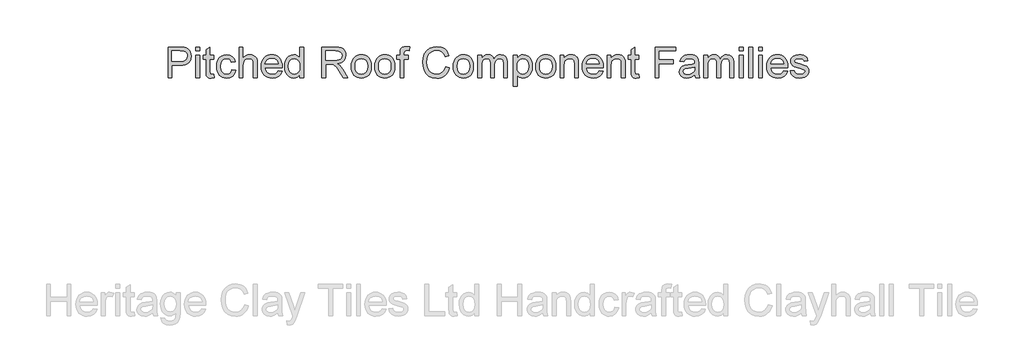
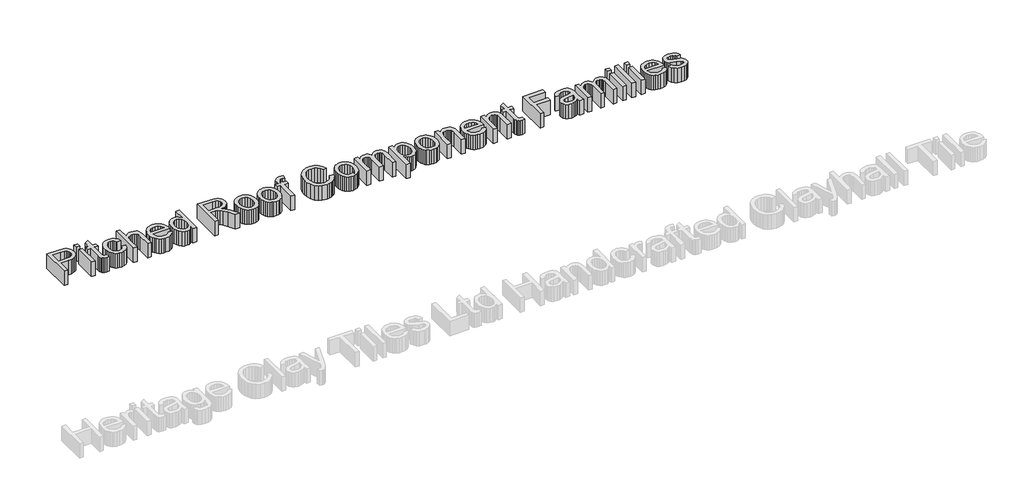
# One storey, part 3 of 3: 1 proxy.
"""IFC4 building model written with IfcOpenShell, lengths in millimetres."""

from ifc_helpers import new_model, si_unit, frame, origin, place, context, project, spatial, polyline, outline, extrude, element, save

model = new_model("IFC4")

# Units and contexts
model_context = context("Model", 3, world=origin())
ifc_project = project(units=[si_unit("LENGTHUNIT", "METRE", prefix="MILLI")], contexts=[model_context])

# Site, building, storey
site = spatial("IfcSite", under=ifc_project)
building = spatial("IfcBuilding", under=site)
storey = spatial("IfcBuildingStorey", under=building, Name="Marley Eternit Clay Plain Tile", Elevation=3000.0)

# Proxy
placement = place(None, origin())
element("IfcBuildingElementProxy", 1, Name="600mm Arial", ObjectType="600mm Arial", at=placement, inside=storey, context=model_context, shape_type="SweptSolid", body=[
    extrude(outline(polyline([(-14657.5919989, 7848.7386136), (-14657.5919989, 8144.123229), (-14548.1208451, 8144.123229), (-14503.9862297, 8141.310729), (-14484.3077441, 8136.0553204), (-14468.1088258, 8127.5006329), (-14455.0649556, 8115.2590463), (-14444.8516143, 8098.9429406), (-14438.2530566, 8079.6971473), (-14436.0535374, 8058.6664982), (-14441.9940422, 8023.8527963), (-14449.4196732, 8008.6229285), (-14459.8155566, 7994.8443829), (-14474.0876419, 7983.4231088), (-14493.1418787, 7975.2650559), (-14516.9782669, 7970.3702242), (-14545.5968066, 7968.7386136), (-14620.668922, 7968.7386136), (-14620.668922, 7848.7386136), (-14657.5919989, 7848.7386136)]), holes=[polyline([(-14620.668922, 8005.6616906), (-14543.4333451, 8005.6616906), (-14510.6929605, 8009.0511136), (-14489.0583451, 8019.2193829), (-14476.997047, 8035.5354886), (-14472.9766143, 8057.3684213), (-14475.3474076, 8073.9549598), (-14482.4597874, 8087.9453444), (-14493.4303403, 8098.4741906), (-14507.3756528, 8104.6761136), (-14544.2987297, 8107.2001521), (-14620.668922, 8107.2001521), (-14620.668922, 8005.6616906)])]), frame((0.0, 0.0, 3000.0), z_axis=(0.0, 0.0, 1.0), x_axis=(1.0, 0.0, 0.0)), (0.0, 0.0, 1.0), 150.0),
    extrude(outline(polyline([(-14389.8996912, 8107.2001521), (-14389.8996912, 8144.123229), (-14352.9766143, 8144.123229), (-14352.9766143, 8107.2001521), (-14389.8996912, 8107.2001521)])), frame((0.0, 0.0, 3000.0), z_axis=(0.0, 0.0, 1.0), x_axis=(1.0, 0.0, 0.0)), (0.0, 0.0, 1.0), 150.0),
    extrude(outline(polyline([(-14389.8996912, 7848.7386136), (-14389.8996912, 8065.6616906), (-14352.9766143, 8065.6616906), (-14352.9766143, 7848.7386136), (-14389.8996912, 7848.7386136)])), frame((0.0, 0.0, 3000.0), z_axis=(0.0, 0.0, 1.0), x_axis=(1.0, 0.0, 0.0)), (0.0, 0.0, 1.0), 150.0),
    extrude(outline(polyline([(-14219.1304605, 7879.5318829), (-14214.5150758, 7847.6568829), (-14242.1352681, 7844.123229), (-14259.8576239, 7845.6556809), (-14273.0727681, 7850.2530367), (-14282.4117105, 7857.3383732), (-14288.5054605, 7866.3347675), (-14291.8588258, 7881.7854886), (-14292.9766143, 7908.2338059), (-14292.9766143, 8028.7386136), (-14320.668922, 8028.7386136), (-14320.668922, 8065.6616906), (-14292.9766143, 8065.6616906), (-14292.9766143, 8118.3780367), (-14256.0535374, 8140.0847675), (-14256.0535374, 8065.6616906), (-14219.1304605, 8065.6616906), (-14219.1304605, 8028.7386136), (-14256.0535374, 8028.7386136), (-14256.0535374, 7909.3155367), (-14254.106422, 7890.2770752), (-14247.7963258, 7883.5342867), (-14235.2121912, 7881.0463059), (-14219.1304605, 7879.5318829)])), frame((0.0, 0.0, 3000.0), z_axis=(0.0, 0.0, 1.0), x_axis=(1.0, 0.0, 0.0)), (0.0, 0.0, 1.0), 150.0),
    extrude(outline(polyline([(-14043.7458451, 7927.2001521), (-14006.8227681, 7922.5847675), (-14017.1172393, 7889.7452242), (-14036.4621912, 7864.9285175), (-14063.0367105, 7849.3245511), (-14095.0198835, 7844.123229), (-14115.7282669, 7845.9373817), (-14134.2957249, 7851.3798396), (-14150.7222573, 7860.4506028), (-14165.0078643, 7873.1496713), (-14176.5711155, 7889.2381629), (-14184.8305806, 7908.4771954), (-14189.7862597, 7930.8667687), (-14191.4381528, 7956.4068829), (-14188.6166383, 7989.264455), (-14180.1520951, 8017.7410175), (-14165.9093066, 8040.7368107), (-14145.7530566, 8057.1520752), (-14121.6394749, 8066.9958252), (-14095.5246912, 8070.2770752), (-14064.325773, 8065.7698636), (-14039.3828643, 8052.248229), (-14021.4892345, 8030.4333252), (-14011.4381528, 8001.0463059), (-14048.3612297, 7996.4309213), (-14055.058946, 8012.5396954), (-14065.4886335, 8024.0871713), (-14079.0733691, 8031.0372915), (-14095.2362297, 8033.3539982), (-14119.0974076, 8028.7927002), (-14138.0367105, 8015.1088059), (-14150.3954845, 7991.5631329), (-14154.5150758, 7957.4164982), (-14150.4856287, 7922.8101281), (-14138.3972874, 7899.1833252), (-14119.8005326, 7885.5805607), (-14096.2458451, 7881.0463059), (-14077.1262537, 7883.8768348), (-14061.450172, 7892.3684213), (-14050.0469268, 7906.7374117), (-14043.7458451, 7927.2001521)])), frame((0.0, 0.0, 3000.0), z_axis=(0.0, 0.0, 1.0), x_axis=(1.0, 0.0, 0.0)), (0.0, 0.0, 1.0), 150.0),
    extrude(outline(polyline([(-13974.5150758, 7848.7386136), (-13974.5150758, 8144.123229), (-13937.5919989, 8144.123229), (-13937.5919989, 8035.5174598), (-13924.0297994, 8050.7247915), (-13908.7999316, 8061.5871713), (-13891.9023956, 8068.1045992), (-13873.3371912, 8070.2770752), (-13851.0355085, 8067.9062819), (-13831.8708451, 8060.7939021), (-13816.7807008, 8049.49883), (-13806.7025758, 8034.5799598), (-13801.0234893, 8014.0811617), (-13799.1304605, 7986.0463059), (-13799.1304605, 7848.7386136), (-13836.0535374, 7848.7386136), (-13836.0535374, 7982.2241906), (-13838.9922393, 8005.3371713), (-13847.8083451, 8021.1664982), (-13862.0150758, 8030.3071232), (-13881.1256528, 8033.3539982), (-13896.7296191, 8031.2987098), (-13911.3780566, 8025.1328444), (-13923.5114701, 8015.451354), (-13931.5703643, 8002.8491906), (-13936.0865903, 7986.1003925), (-13937.5919989, 7963.9789982), (-13937.5919989, 7848.7386136), (-13974.5150758, 7848.7386136)])), frame((0.0, 0.0, 3000.0), z_axis=(0.0, 0.0, 1.0), x_axis=(1.0, 0.0, 0.0)), (0.0, 0.0, 1.0), 150.0),
    extrude(outline(polyline([(-13596.4862297, 7913.3539982), (-13560.2843066, 7908.7386136), (-13573.3281768, 7881.4609694), (-13594.1424797, 7861.0703444), (-13622.2584653, 7848.3600079), (-13657.2073835, 7844.123229), (-13680.1175398, 7845.9509033), (-13700.5307008, 7851.4339261), (-13718.4468667, 7860.5722975), (-13733.8660374, 7873.3660175), (-13746.2653763, 7889.4590163), (-13755.122047, 7908.4952242), (-13760.4360494, 7930.4746413), (-13762.2073835, 7955.3972675), (-13760.4180206, 7981.1649958), (-13755.0499316, 8003.8768348), (-13746.1031167, 8023.5327843), (-13733.5775758, 8040.1328444), (-13718.1989701, 8053.3209454), (-13700.6929605, 8062.7410175), (-13681.059547, 8068.3930607), (-13659.2987297, 8070.2770752), (-13638.2387838, 8068.397568), (-13619.1935614, 8062.7590463), (-13602.1630626, 8053.3615103), (-13587.1472874, 8040.2049598), (-13574.8899256, 8023.6409574), (-13566.1346672, 8004.0210656), (-13560.8815121, 7981.3452843), (-13559.1304605, 7955.6136136), (-13559.3468066, 7945.6616906), (-13725.2843066, 7945.6616906), (-13718.8930806, 7918.0234694), (-13704.0463258, 7897.7049598), (-13682.6190422, 7885.2109694), (-13656.4862297, 7881.0463059), (-13636.8347874, 7882.9753925), (-13620.2843066, 7888.7626521), (-13606.8347874, 7898.7686617), (-13596.4862297, 7913.3539982)]), holes=[polyline([(-13725.2843066, 7982.5847675), (-13596.0535374, 7982.5847675), (-13601.0475278, 8002.091979), (-13610.8371912, 8016.0463059), (-13632.3636335, 8029.0270752), (-13659.4429605, 8033.3539982), (-13684.3317826, 8029.9014742), (-13704.9117105, 8019.5439021), (-13719.2175999, 8003.3990704), (-13725.2843066, 7982.5847675)])]), frame((0.0, 0.0, 3000.0), z_axis=(0.0, 0.0, 1.0), x_axis=(1.0, 0.0, 0.0)), (0.0, 0.0, 1.0), 150.0),
    extrude(outline(polyline([(-13388.3612297, 7848.7386136), (-13388.3612297, 7883.5703444), (-13399.4084052, 7866.3122314), (-13412.7903162, 7853.9850079), (-13428.5069629, 7846.5886737), (-13446.5583451, 7844.123229), (-13470.4285374, 7847.6929406), (-13492.2794989, 7858.4020752), (-13510.7770951, 7875.5024357), (-13524.5871912, 7898.2458252), (-13533.1869508, 7925.7127723), (-13536.0535374, 7956.9838059), (-13533.4123114, 7987.8672194), (-13525.4886335, 8015.7578444), (-13512.2915181, 8039.0691425), (-13493.8299797, 8056.2145752), (-13471.5012537, 8066.7614502), (-13446.7025758, 8070.2770752), (-13428.637672, 8067.7620511), (-13412.6641143, 8060.216979), (-13399.1244508, 8048.6514742), (-13388.3612297, 8034.0751521), (-13388.3612297, 8144.123229), (-13351.4381528, 8144.123229), (-13351.4381528, 7848.7386136), (-13388.3612297, 7848.7386136)]), holes=[polyline([(-13499.1304605, 7957.1280367), (-13494.965797, 7923.7295992), (-13482.4718066, 7899.9765944), (-13464.3167585, 7885.7788781), (-13443.168922, 7881.0463059), (-13422.0300999, 7885.5625319), (-13404.3347874, 7899.1112098), (-13392.3546191, 7921.9447434), (-13388.3612297, 7954.3155367), (-13392.4267345, 7989.7061617), (-13404.6232489, 8014.2434213), (-13422.7692826, 8028.576354), (-13444.6833451, 8033.3539982), (-13466.0475278, 8028.7656569), (-13483.5535374, 8015.0006329), (-13495.2362297, 7991.3558011), (-13499.1304605, 7957.1280367)])]), frame((0.0, 0.0, 3000.0), z_axis=(0.0, 0.0, 1.0), x_axis=(1.0, 0.0, 0.0)), (0.0, 0.0, 1.0), 150.0),
    extrude(outline(polyline([(-13176.0535374, 7848.7386136), (-13176.0535374, 8144.123229), (-13048.7698835, 8144.123229), (-13014.560148, 8142.1310415), (-12989.6713258, 8136.154479), (-12971.4802201, 8125.1208252), (-12957.3636335, 8107.9573636), (-12948.3041383, 8086.6743107), (-12945.2843066, 8063.2818829), (-12950.2873114, 8034.1833252), (-12965.2963258, 8010.060729), (-12976.6657669, 8000.2305006), (-12990.762071, 7992.3744309), (-13027.1352681, 7982.5847675), (-13006.1496912, 7966.7914982), (-12976.2218066, 7928.7866906), (-12926.9669989, 7848.7386136), (-12969.8756528, 7848.7386136), (-13008.3131528, 7909.9645752), (-13036.0775758, 7950.4934213), (-13055.5847874, 7969.6400559), (-13073.1448835, 7976.6713059), (-13094.5631528, 7977.9693829), (-13139.1304605, 7977.9693829), (-13139.1304605, 7848.7386136), (-13176.0535374, 7848.7386136)]), holes=[polyline([(-13139.1304605, 8014.8924598), (-13056.4862297, 8014.8924598), (-13032.7512537, 8016.1995511), (-13014.3347874, 8020.1208252), (-13000.4706047, 8026.9177002), (-12990.3924797, 8036.8515944), (-12984.2536576, 8048.8678204), (-12982.2073835, 8061.9116906), (-12986.1106287, 8079.9225079), (-12997.8203643, 8094.435729), (-13017.9675999, 8104.0090463), (-13047.1833451, 8107.2001521), (-13139.1304605, 8107.2001521), (-13139.1304605, 8014.8924598)])]), frame((0.0, 0.0, 3000.0), z_axis=(0.0, 0.0, 1.0), x_axis=(1.0, 0.0, 0.0)), (0.0, 0.0, 1.0), 150.0),
    extrude(outline(polyline([(-12894.5150758, 7957.2001521), (-12892.5183811, 7985.2936016), (-12886.528297, 8009.5018348), (-12876.5448234, 8029.8248516), (-12862.5679605, 8046.2626521), (-12848.496446, 8056.7689622), (-12832.9645951, 8064.2734694), (-12815.9724076, 8068.7761737), (-12797.5198835, 8070.2770752), (-12777.149541, 8068.4494009), (-12758.730821, 8062.9663781), (-12742.2637237, 8053.8280067), (-12727.7482489, 8041.0342867), (-12715.9010434, 8025.0179105), (-12707.4387537, 8006.2115704), (-12702.3613799, 7984.6152663), (-12700.668922, 7960.2289982), (-12703.6617105, 7922.9273156), (-12712.6400758, 7894.5318829), (-12727.3425999, 7873.2668588), (-12747.5078643, 7857.3564021), (-12771.4591864, 7847.4315223), (-12797.5198835, 7844.123229), (-12818.187702, 7845.9441425), (-12836.777696, 7851.4068829), (-12853.2898655, 7860.5114502), (-12867.7242105, 7873.2578444), (-12879.4452141, 7889.4297194), (-12887.8173595, 7908.810729), (-12892.8406468, 7931.4008732), (-12894.5150758, 7957.2001521)]), holes=[polyline([(-12857.5919989, 7957.2722675), (-12853.3191624, 7923.8558011), (-12840.5006528, 7900.0487098), (-12821.2097874, 7885.7969069), (-12797.5198835, 7881.0463059), (-12773.9381528, 7885.8239502), (-12754.6833451, 7900.1568829), (-12741.8648355, 7924.279479), (-12737.5919989, 7958.4261136), (-12741.8918787, 7990.8690223), (-12754.7915181, 8014.3515944), (-12774.0733691, 8028.6033973), (-12797.5198835, 8033.3539982), (-12821.2097874, 8028.6214261), (-12840.5006528, 8014.4237098), (-12853.3191624, 7990.670705), (-12857.5919989, 7957.2722675)])]), frame((0.0, 0.0, 3000.0), z_axis=(0.0, 0.0, 1.0), x_axis=(1.0, 0.0, 0.0)), (0.0, 0.0, 1.0), 150.0),
    extrude(outline(polyline([(-12668.3612297, 7957.2001521), (-12666.364535, 7985.2936016), (-12660.3744508, 8009.5018348), (-12650.3909773, 8029.8248516), (-12636.4141143, 8046.2626521), (-12622.3425999, 8056.7689622), (-12606.8107489, 8064.2734694), (-12589.8185614, 8068.7761737), (-12571.3660374, 8070.2770752), (-12550.9956948, 8068.4494009), (-12532.5769749, 8062.9663781), (-12516.1098775, 8053.8280067), (-12501.5944028, 8041.0342867), (-12489.7471972, 8025.0179105), (-12481.2849076, 8006.2115704), (-12476.2075338, 7984.6152663), (-12474.5150758, 7960.2289982), (-12477.5078643, 7922.9273156), (-12486.4862297, 7894.5318829), (-12501.1887537, 7873.2668588), (-12521.3540181, 7857.3564021), (-12545.3053403, 7847.4315223), (-12571.3660374, 7844.123229), (-12592.0338559, 7845.9441425), (-12610.6238499, 7851.4068829), (-12627.1360193, 7860.5114502), (-12641.5703643, 7873.2578444), (-12653.2913679, 7889.4297194), (-12661.6635133, 7908.810729), (-12666.6868006, 7931.4008732), (-12668.3612297, 7957.2001521)]), holes=[polyline([(-12631.4381528, 7957.2722675), (-12627.1653162, 7923.8558011), (-12614.3468066, 7900.0487098), (-12595.0559412, 7885.7969069), (-12571.3660374, 7881.0463059), (-12547.7843066, 7885.8239502), (-12528.5294989, 7900.1568829), (-12515.7109893, 7924.279479), (-12511.4381528, 7958.4261136), (-12515.7380326, 7990.8690223), (-12528.637672, 8014.3515944), (-12547.919523, 8028.6033973), (-12571.3660374, 8033.3539982), (-12595.0559412, 8028.6214261), (-12614.3468066, 8014.4237098), (-12627.1653162, 7990.670705), (-12631.4381528, 7957.2722675)])]), frame((0.0, 0.0, 3000.0), z_axis=(0.0, 0.0, 1.0), x_axis=(1.0, 0.0, 0.0)), (0.0, 0.0, 1.0), 150.0),
    extrude(outline(polyline([(-12423.7458451, 7848.7386136), (-12423.7458451, 8028.7386136), (-12456.0535374, 8028.7386136), (-12456.0535374, 8065.6616906), (-12423.7458451, 8065.6616906), (-12423.7458451, 8087.5126521), (-12419.8516143, 8118.3059213), (-12412.4237297, 8130.5835656), (-12400.9573835, 8140.3011136), (-12384.9117105, 8146.6292386), (-12363.7458451, 8148.7386136), (-12330.0679605, 8144.7001521), (-12335.4766143, 8110.0847675), (-12356.7506528, 8111.8155367), (-12370.7861095, 8110.2830848), (-12380.0078643, 8105.685729), (-12385.1190422, 8096.9056809), (-12386.8227681, 8082.8251521), (-12386.8227681, 8065.6616906), (-12345.2843066, 8065.6616906), (-12345.2843066, 8028.7386136), (-12386.8227681, 8028.7386136), (-12386.8227681, 7848.7386136), (-12423.7458451, 7848.7386136)])), frame((0.0, 0.0, 3000.0), z_axis=(0.0, 0.0, 1.0), x_axis=(1.0, 0.0, 0.0)), (0.0, 0.0, 1.0), 150.0),
    extrude(outline(polyline([(-11985.2843066, 7953.7386136), (-11948.3612297, 7944.2193829), (-11955.6674196, 7921.2573937), (-11965.3984893, 7901.1935415), (-11977.5544388, 7884.0278264), (-11992.1352681, 7869.7602482), (-12008.8119508, 7858.5440523), (-12027.2554605, 7850.5324838), (-12047.465797, 7845.7255427), (-12069.4429605, 7844.123229), (-12112.2704845, 7848.9729886), (-12146.2819028, 7863.5222675), (-12172.3516143, 7887.2662579), (-12191.3540181, 7919.7001521), (-12202.9555806, 7957.8311617), (-12206.8227681, 7998.6664982), (-12202.450773, 8041.7374117), (-12189.3347874, 8078.9309213), (-12168.1599076, 8109.0661377), (-12139.6112297, 8130.9621713), (-12105.7530566, 8144.2945031), (-12068.6496912, 8148.7386136), (-12028.1659172, 8142.9874117), (-12010.5539881, 8135.7984093), (-11994.6953643, 8125.7338059), (-11980.8514641, 8113.0595271), (-11969.2837056, 8098.0414982), (-11952.9766143, 8060.9741906), (-11989.8996912, 8052.1761136), (-12002.700172, 8079.1021954), (-12020.1881528, 8097.5727482), (-12042.5799797, 8108.2548396), (-12070.0919989, 8111.8155367), (-12101.8047393, 8107.8672194), (-12127.856422, 8096.0222675), (-12147.6250518, 8077.5246713), (-12160.4886335, 8053.6184213), (-12167.5469268, 8026.5931809), (-12169.8996912, 7998.7386136), (-12167.1142345, 7964.6280367), (-12158.7578643, 7935.1328444), (-12144.5150758, 7911.3798396), (-12124.0703643, 7894.4958252), (-12099.560148, 7884.4086857), (-12073.1208451, 7881.0463059), (-12042.3005326, 7885.6256329), (-12016.6184412, 7899.3636136), (-11997.2284172, 7922.1160175), (-11985.2843066, 7953.7386136)])), frame((0.0, 0.0, 3000.0), z_axis=(0.0, 0.0, 1.0), x_axis=(1.0, 0.0, 0.0)), (0.0, 0.0, 1.0), 150.0),
    extrude(outline(polyline([(-11911.4381528, 7957.2001521), (-11909.4414581, 7985.2936016), (-11903.4513739, 8009.5018348), (-11893.4679004, 8029.8248516), (-11879.4910374, 8046.2626521), (-11865.419523, 8056.7689622), (-11849.887672, 8064.2734694), (-11832.8954845, 8068.7761737), (-11814.4429605, 8070.2770752), (-11794.0726179, 8068.4494009), (-11775.653898, 8062.9663781), (-11759.1868006, 8053.8280067), (-11744.6713258, 8041.0342867), (-11732.8241203, 8025.0179105), (-11724.3618306, 8006.2115704), (-11719.2844568, 7984.6152663), (-11717.5919989, 7960.2289982), (-11720.5847874, 7922.9273156), (-11729.5631528, 7894.5318829), (-11744.2656768, 7873.2668588), (-11764.4309412, 7857.3564021), (-11788.3822633, 7847.4315223), (-11814.4429605, 7844.123229), (-11835.110779, 7845.9441425), (-11853.700773, 7851.4068829), (-11870.2129424, 7860.5114502), (-11884.6472874, 7873.2578444), (-11896.368291, 7889.4297194), (-11904.7404364, 7908.810729), (-11909.7637237, 7931.4008732), (-11911.4381528, 7957.2001521)]), holes=[polyline([(-11874.5150758, 7957.2722675), (-11870.2422393, 7923.8558011), (-11857.4237297, 7900.0487098), (-11838.1328643, 7885.7969069), (-11814.4429605, 7881.0463059), (-11790.8612297, 7885.8239502), (-11771.606422, 7900.1568829), (-11758.7879124, 7924.279479), (-11754.5150758, 7958.4261136), (-11758.8149556, 7990.8690223), (-11771.7145951, 8014.3515944), (-11790.996446, 8028.6033973), (-11814.4429605, 8033.3539982), (-11838.1328643, 8028.6214261), (-11857.4237297, 8014.4237098), (-11870.2422393, 7990.670705), (-11874.5150758, 7957.2722675)])]), frame((0.0, 0.0, 3000.0), z_axis=(0.0, 0.0, 1.0), x_axis=(1.0, 0.0, 0.0)), (0.0, 0.0, 1.0), 150.0),
    extrude(outline(polyline([(-11676.0535374, 7848.7386136), (-11676.0535374, 8065.6616906), (-11639.1304605, 8065.6616906), (-11639.1304605, 8029.9645752), (-11628.0246912, 8046.3618107), (-11613.7458451, 8059.2073636), (-11596.7807008, 8067.5096473), (-11577.6160374, 8070.2770752), (-11557.0811816, 8067.4555607), (-11540.6208451, 8058.9910175), (-11528.325172, 8045.4423396), (-11520.2843066, 8027.3684213), (-11506.825773, 8046.1409574), (-11491.4742105, 8059.5499117), (-11474.2296191, 8067.5952843), (-11455.0919989, 8070.2770752), (-11427.3365903, 8065.8149357), (-11406.8107489, 8052.4285175), (-11394.1274556, 8029.7572434), (-11389.8996912, 7997.4405367), (-11389.8996912, 7848.7386136), (-11426.8227681, 7848.7386136), (-11426.8227681, 7981.5751521), (-11430.2482489, 8012.404479), (-11435.0619508, 8020.90508), (-11442.6520951, 8027.5847675), (-11452.4147153, 8031.9116906), (-11463.7458451, 8033.3539982), (-11483.7488499, 8029.6580848), (-11500.0559412, 8018.5703444), (-11510.9002922, 7999.3335656), (-11514.5150758, 7971.1905367), (-11514.5150758, 7848.7386136), (-11551.4381528, 7848.7386136), (-11551.4381528, 7985.685729), (-11553.574571, 8006.5631329), (-11559.9838258, 8021.4549598), (-11571.2608691, 8030.3792386), (-11588.0006528, 8033.3539982), (-11602.2254124, 8031.3708252), (-11615.3323835, 8025.4213059), (-11626.1496912, 8015.6496713), (-11633.5054605, 8002.2001521), (-11637.7242105, 7983.5402963), (-11639.1304605, 7958.1376521), (-11639.1304605, 7848.7386136), (-11676.0535374, 7848.7386136)])), frame((0.0, 0.0, 3000.0), z_axis=(0.0, 0.0, 1.0), x_axis=(1.0, 0.0, 0.0)), (0.0, 0.0, 1.0), 150.0),
    extrude(outline(polyline([(-11334.5150758, 7765.6616906), (-11334.5150758, 8065.6616906), (-11297.5919989, 8065.6616906), (-11297.5919989, 8029.4597675), (-11285.5487297, 8047.3173396), (-11272.0631528, 8060.0727482), (-11256.3419989, 8067.7259934), (-11237.5919989, 8070.2770752), (-11212.622047, 8066.7073636), (-11190.7891143, 8055.998229), (-11173.012672, 8038.7987098), (-11160.2121912, 8015.7578444), (-11152.4778162, 7988.5523156), (-11149.8996912, 7958.8588059), (-11152.8113499, 7927.2812819), (-11161.5463258, 7899.0390944), (-11175.825172, 7875.5655367), (-11195.3684412, 7858.2939021), (-11218.1298595, 7847.6658973), (-11242.0631528, 7844.123229), (-11259.0373114, 7846.4940223), (-11274.1905566, 7853.6064021), (-11287.1623114, 7864.34258), (-11297.5919989, 7877.5847675), (-11297.5919989, 7765.6616906), (-11334.5150758, 7765.6616906)]), holes=[polyline([(-11297.5919989, 7955.4693829), (-11293.5986095, 7922.3684213), (-11281.6184412, 7899.2193829), (-11263.9411576, 7885.5895752), (-11242.856422, 7881.0463059), (-11221.4291383, 7885.7518348), (-11203.3011335, 7899.8684213), (-11190.9423595, 7923.8648156), (-11186.8227681, 7958.2097675), (-11190.8432008, 7991.1304406), (-11202.9044989, 8014.6039982), (-11220.5547393, 8028.6664982), (-11241.3419989, 8033.3539982), (-11262.2103883, 8028.3690223), (-11280.5367105, 8013.4140944), (-11293.3281768, 7988.9579646), (-11297.5919989, 7955.4693829)])]), frame((0.0, 0.0, 3000.0), z_axis=(0.0, 0.0, 1.0), x_axis=(1.0, 0.0, 0.0)), (0.0, 0.0, 1.0), 150.0),
    extrude(outline(polyline([(-11117.5919989, 7957.2001521), (-11115.5953042, 7985.2936016), (-11109.6052201, 8009.5018348), (-11099.6217465, 8029.8248516), (-11085.6448835, 8046.2626521), (-11071.5733691, 8056.7689622), (-11056.0415181, 8064.2734694), (-11039.0493306, 8068.7761737), (-11020.5968066, 8070.2770752), (-11000.2264641, 8068.4494009), (-10981.8077441, 8062.9663781), (-10965.3406468, 8053.8280067), (-10950.825172, 8041.0342867), (-10938.9779665, 8025.0179105), (-10930.5156768, 8006.2115704), (-10925.438303, 7984.6152663), (-10923.7458451, 7960.2289982), (-10926.7386335, 7922.9273156), (-10935.7169989, 7894.5318829), (-10950.419523, 7873.2668588), (-10970.5847874, 7857.3564021), (-10994.5361095, 7847.4315223), (-11020.5968066, 7844.123229), (-11041.2646251, 7845.9441425), (-11059.8546191, 7851.4068829), (-11076.3667886, 7860.5114502), (-11090.8011335, 7873.2578444), (-11102.5221371, 7889.4297194), (-11110.8942826, 7908.810729), (-11115.9175698, 7931.4008732), (-11117.5919989, 7957.2001521)]), holes=[polyline([(-11080.668922, 7957.2722675), (-11076.3960855, 7923.8558011), (-11063.5775758, 7900.0487098), (-11044.2867105, 7885.7969069), (-11020.5968066, 7881.0463059), (-10997.0150758, 7885.8239502), (-10977.7602681, 7900.1568829), (-10964.9417585, 7924.279479), (-10960.668922, 7958.4261136), (-10964.9688018, 7990.8690223), (-10977.8684412, 8014.3515944), (-10997.1502922, 8028.6033973), (-11020.5968066, 8033.3539982), (-11044.2867105, 8028.6214261), (-11063.5775758, 8014.4237098), (-11076.3960855, 7990.670705), (-11080.668922, 7957.2722675)])]), frame((0.0, 0.0, 3000.0), z_axis=(0.0, 0.0, 1.0), x_axis=(1.0, 0.0, 0.0)), (0.0, 0.0, 1.0), 150.0),
    extrude(outline(polyline([(-10882.2073835, 7848.7386136), (-10882.2073835, 8065.6616906), (-10845.2843066, 8065.6616906), (-10845.2843066, 8035.373229), (-10832.4567826, 8050.6436617), (-10817.0511335, 8061.5511136), (-10799.0673595, 8068.0955848), (-10778.5054605, 8070.2770752), (-10760.3053403, 8068.5192627), (-10743.637672, 8063.2458252), (-10729.7374316, 8055.1148156), (-10719.8395951, 8044.7842867), (-10708.7698835, 8017.6328444), (-10706.8227681, 7981.935729), (-10706.8227681, 7848.7386136), (-10743.7458451, 7848.7386136), (-10743.7458451, 7976.9597675), (-10748.0006528, 8009.6280367), (-10753.887071, 8019.3545992), (-10763.0367105, 8026.8996713), (-10774.7644749, 8031.7404165), (-10788.3852681, 8033.3539982), (-10810.0108691, 8029.7302002), (-10828.4453643, 8018.8588059), (-10835.8124016, 8009.9841064), (-10841.074571, 7997.8552002), (-10845.2843066, 7963.8347675), (-10845.2843066, 7848.7386136), (-10882.2073835, 7848.7386136)])), frame((0.0, 0.0, 3000.0), z_axis=(0.0, 0.0, 1.0), x_axis=(1.0, 0.0, 0.0)), (0.0, 0.0, 1.0), 150.0),
    extrude(outline(polyline([(-10504.1785374, 7913.3539982), (-10467.9766143, 7908.7386136), (-10481.0204845, 7881.4609694), (-10501.8347874, 7861.0703444), (-10529.950773, 7848.3600079), (-10564.8996912, 7844.123229), (-10587.8098475, 7845.9509033), (-10608.2230085, 7851.4339261), (-10626.1391744, 7860.5722975), (-10641.5583451, 7873.3660175), (-10653.957684, 7889.4590163), (-10662.8143547, 7908.4952242), (-10668.1283571, 7930.4746413), (-10669.8996912, 7955.3972675), (-10668.1103282, 7981.1649958), (-10662.7422393, 8003.8768348), (-10653.7954244, 8023.5327843), (-10641.2698835, 8040.1328444), (-10625.8912778, 8053.3209454), (-10608.3852681, 8062.7410175), (-10588.7518547, 8068.3930607), (-10566.9910374, 8070.2770752), (-10545.9310915, 8068.397568), (-10526.8858691, 8062.7590463), (-10509.8553703, 8053.3615103), (-10494.8395951, 8040.2049598), (-10482.5822333, 8023.6409574), (-10473.8269749, 8004.0210656), (-10468.5738198, 7981.3452843), (-10466.8227681, 7955.6136136), (-10467.0391143, 7945.6616906), (-10632.9766143, 7945.6616906), (-10626.5853883, 7918.0234694), (-10611.7386335, 7897.7049598), (-10590.3113499, 7885.2109694), (-10564.1785374, 7881.0463059), (-10544.5270951, 7882.9753925), (-10527.9766143, 7888.7626521), (-10514.5270951, 7898.7686617), (-10504.1785374, 7913.3539982)]), holes=[polyline([(-10632.9766143, 7982.5847675), (-10503.7458451, 7982.5847675), (-10508.7398355, 8002.091979), (-10518.5294989, 8016.0463059), (-10540.0559412, 8029.0270752), (-10567.1352681, 8033.3539982), (-10592.0240903, 8029.9014742), (-10612.6040181, 8019.5439021), (-10626.9099076, 8003.3990704), (-10632.9766143, 7982.5847675)])]), frame((0.0, 0.0, 3000.0), z_axis=(0.0, 0.0, 1.0), x_axis=(1.0, 0.0, 0.0)), (0.0, 0.0, 1.0), 150.0),
    extrude(outline(polyline([(-10429.8996912, 7848.7386136), (-10429.8996912, 8065.6616906), (-10392.9766143, 8065.6616906), (-10392.9766143, 8035.373229), (-10380.1490903, 8050.6436617), (-10364.7434412, 8061.5511136), (-10346.7596672, 8068.0955848), (-10326.1977681, 8070.2770752), (-10307.997648, 8068.5192627), (-10291.3299797, 8063.2458252), (-10277.4297393, 8055.1148156), (-10267.5319028, 8044.7842867), (-10256.4621912, 8017.6328444), (-10254.5150758, 7981.935729), (-10254.5150758, 7848.7386136), (-10291.4381528, 7848.7386136), (-10291.4381528, 7976.9597675), (-10295.6929605, 8009.6280367), (-10301.5793787, 8019.3545992), (-10310.7290181, 8026.8996713), (-10322.4567826, 8031.7404165), (-10336.0775758, 8033.3539982), (-10357.7031768, 8029.7302002), (-10376.137672, 8018.8588059), (-10383.5047093, 8009.9841064), (-10388.7668787, 7997.8552002), (-10392.9766143, 7963.8347675), (-10392.9766143, 7848.7386136), (-10429.8996912, 7848.7386136)])), frame((0.0, 0.0, 3000.0), z_axis=(0.0, 0.0, 1.0), x_axis=(1.0, 0.0, 0.0)), (0.0, 0.0, 1.0), 150.0),
    extrude(outline(polyline([(-10125.2843066, 7879.5318829), (-10120.668922, 7847.6568829), (-10148.2891143, 7844.123229), (-10166.0114701, 7845.6556809), (-10179.2266143, 7850.2530367), (-10188.5655566, 7857.3383732), (-10194.6593066, 7866.3347675), (-10198.012672, 7881.7854886), (-10199.1304605, 7908.2338059), (-10199.1304605, 8028.7386136), (-10226.8227681, 8028.7386136), (-10226.8227681, 8065.6616906), (-10199.1304605, 8065.6616906), (-10199.1304605, 8118.3780367), (-10162.2073835, 8140.0847675), (-10162.2073835, 8065.6616906), (-10125.2843066, 8065.6616906), (-10125.2843066, 8028.7386136), (-10162.2073835, 8028.7386136), (-10162.2073835, 7909.3155367), (-10160.2602681, 7890.2770752), (-10153.950172, 7883.5342867), (-10141.3660374, 7881.0463059), (-10125.2843066, 7879.5318829)])), frame((0.0, 0.0, 3000.0), z_axis=(0.0, 0.0, 1.0), x_axis=(1.0, 0.0, 0.0)), (0.0, 0.0, 1.0), 150.0),
    extrude(outline(polyline([(-9968.3612297, 7848.7386136), (-9968.3612297, 8144.123229), (-9769.8996912, 8144.123229), (-9769.8996912, 8107.2001521), (-9931.4381528, 8107.2001521), (-9931.4381528, 8019.5078444), (-9792.9766143, 8019.5078444), (-9792.9766143, 7982.5847675), (-9931.4381528, 7982.5847675), (-9931.4381528, 7848.7386136), (-9968.3612297, 7848.7386136)])), frame((0.0, 0.0, 3000.0), z_axis=(0.0, 0.0, 1.0), x_axis=(1.0, 0.0, 0.0)), (0.0, 0.0, 1.0), 150.0),
    extrude(outline(polyline([(-9585.2843066, 7876.4309213), (-9602.9255326, 7861.3047194), (-9621.0895951, 7851.4068829), (-9640.1911576, 7845.9441425), (-9660.6448835, 7844.123229), (-9691.5012537, 7848.5042386), (-9714.262672, 7861.6472675), (-9728.2981287, 7881.6052002), (-9732.9766143, 7906.4309213), (-9731.2097874, 7921.7374117), (-9725.9093066, 7935.6376521), (-9717.7332249, 7947.5366906), (-9707.3395951, 7956.8395752), (-9681.4862297, 7968.9549598), (-9649.5391143, 7974.5078444), (-9611.7867105, 7980.3491906), (-9585.5006528, 7987.2001521), (-9585.2843066, 7995.4213059), (-9587.8263739, 8011.8996713), (-9595.4525758, 8022.6809213), (-9612.5078643, 8030.685729), (-9636.2698835, 8033.3539982), (-9658.2650758, 8031.5781569), (-9673.6256528, 8026.2506329), (-9684.1004124, 8016.3978684), (-9691.4381528, 8001.0463059), (-9728.3612297, 8005.6616906), (-9721.9519749, 8025.8539982), (-9712.387672, 8041.7193829), (-9698.7758931, 8053.8527963), (-9680.2242105, 8062.8491906), (-9657.5349076, 8068.420104), (-9631.5102681, 8070.2770752), (-9606.5493306, 8068.6364502), (-9586.762672, 8063.7145752), (-9571.8438018, 8056.3137338), (-9561.4862297, 8047.2362098), (-9554.6172393, 8036.0132531), (-9550.1641143, 8022.1761136), (-9548.3612297, 7989.8684213), (-9548.3612297, 7943.9309213), (-9546.4862297, 7879.7842867), (-9539.1304605, 7848.7386136), (-9576.0535374, 7848.7386136), (-9585.2843066, 7876.4309213)]), holes=[polyline([(-9585.2843066, 7950.2770752), (-9644.8516143, 7938.9549598), (-9676.6184412, 7932.9693829), (-9691.0054605, 7923.2338059), (-9696.0535374, 7909.0270752), (-9693.3041383, 7898.0475079), (-9685.0559412, 7889.0511136), (-9671.4892345, 7883.0475079), (-9652.7843066, 7881.0463059), (-9632.9525758, 7883.2548396), (-9615.4285374, 7889.8804406), (-9601.2218066, 7899.6430607), (-9591.3419989, 7911.2626521), (-9586.9609893, 7923.2338059), (-9585.5006528, 7939.8203444), (-9585.2843066, 7950.2770752)])]), frame((0.0, 0.0, 3000.0), z_axis=(0.0, 0.0, 1.0), x_axis=(1.0, 0.0, 0.0)), (0.0, 0.0, 1.0), 150.0),
    extrude(outline(polyline([(-9497.5919989, 7848.7386136), (-9497.5919989, 8065.6616906), (-9460.668922, 8065.6616906), (-9460.668922, 8029.9645752), (-9449.5631528, 8046.3618107), (-9435.2843066, 8059.2073636), (-9418.3191624, 8067.5096473), (-9399.1544989, 8070.2770752), (-9378.6196431, 8067.4555607), (-9362.1593066, 8058.9910175), (-9349.8636335, 8045.4423396), (-9341.8227681, 8027.3684213), (-9328.3642345, 8046.1409574), (-9313.012672, 8059.5499117), (-9295.7680806, 8067.5952843), (-9276.6304605, 8070.2770752), (-9248.8750518, 8065.8149357), (-9228.3492105, 8052.4285175), (-9215.6659172, 8029.7572434), (-9211.4381528, 7997.4405367), (-9211.4381528, 7848.7386136), (-9248.3612297, 7848.7386136), (-9248.3612297, 7981.5751521), (-9251.7867105, 8012.404479), (-9256.6004124, 8020.90508), (-9264.1905566, 8027.5847675), (-9273.9531768, 8031.9116906), (-9285.2843066, 8033.3539982), (-9305.2873114, 8029.6580848), (-9321.5944028, 8018.5703444), (-9332.4387537, 7999.3335656), (-9336.0535374, 7971.1905367), (-9336.0535374, 7848.7386136), (-9372.9766143, 7848.7386136), (-9372.9766143, 7985.685729), (-9375.1130326, 8006.5631329), (-9381.5222874, 8021.4549598), (-9392.7993306, 8030.3792386), (-9409.5391143, 8033.3539982), (-9423.7638739, 8031.3708252), (-9436.8708451, 8025.4213059), (-9447.6881528, 8015.6496713), (-9455.043922, 8002.2001521), (-9459.262672, 7983.5402963), (-9460.668922, 7958.1376521), (-9460.668922, 7848.7386136), (-9497.5919989, 7848.7386136)])), frame((0.0, 0.0, 3000.0), z_axis=(0.0, 0.0, 1.0), x_axis=(1.0, 0.0, 0.0)), (0.0, 0.0, 1.0), 150.0),
    extrude(outline(polyline([(-9156.0535374, 8107.2001521), (-9156.0535374, 8144.123229), (-9119.1304605, 8144.123229), (-9119.1304605, 8107.2001521), (-9156.0535374, 8107.2001521)])), frame((0.0, 0.0, 3000.0), z_axis=(0.0, 0.0, 1.0), x_axis=(1.0, 0.0, 0.0)), (0.0, 0.0, 1.0), 150.0),
    extrude(outline(polyline([(-9156.0535374, 7848.7386136), (-9156.0535374, 8065.6616906), (-9119.1304605, 8065.6616906), (-9119.1304605, 7848.7386136), (-9156.0535374, 7848.7386136)])), frame((0.0, 0.0, 3000.0), z_axis=(0.0, 0.0, 1.0), x_axis=(1.0, 0.0, 0.0)), (0.0, 0.0, 1.0), 150.0),
    extrude(outline(polyline([(-9063.7458451, 7848.7386136), (-9063.7458451, 8144.123229), (-9026.8227681, 8144.123229), (-9026.8227681, 7848.7386136), (-9063.7458451, 7848.7386136)])), frame((0.0, 0.0, 3000.0), z_axis=(0.0, 0.0, 1.0), x_axis=(1.0, 0.0, 0.0)), (0.0, 0.0, 1.0), 150.0),
    extrude(outline(polyline([(-8971.4381528, 8107.2001521), (-8971.4381528, 8144.123229), (-8934.5150758, 8144.123229), (-8934.5150758, 8107.2001521), (-8971.4381528, 8107.2001521)])), frame((0.0, 0.0, 3000.0), z_axis=(0.0, 0.0, 1.0), x_axis=(1.0, 0.0, 0.0)), (0.0, 0.0, 1.0), 150.0),
    extrude(outline(polyline([(-8971.4381528, 7848.7386136), (-8971.4381528, 8065.6616906), (-8934.5150758, 8065.6616906), (-8934.5150758, 7848.7386136), (-8971.4381528, 7848.7386136)])), frame((0.0, 0.0, 3000.0), z_axis=(0.0, 0.0, 1.0), x_axis=(1.0, 0.0, 0.0)), (0.0, 0.0, 1.0), 150.0),
    extrude(outline(polyline([(-8727.2554605, 7913.3539982), (-8691.0535374, 7908.7386136), (-8704.0974076, 7881.4609694), (-8724.9117105, 7861.0703444), (-8753.027696, 7848.3600079), (-8787.9766143, 7844.123229), (-8810.8867706, 7845.9509033), (-8831.2999316, 7851.4339261), (-8849.2160975, 7860.5722975), (-8864.6352681, 7873.3660175), (-8877.0346071, 7889.4590163), (-8885.8912778, 7908.4952242), (-8891.2052802, 7930.4746413), (-8892.9766143, 7955.3972675), (-8891.1872513, 7981.1649958), (-8885.8191624, 8003.8768348), (-8876.8723475, 8023.5327843), (-8864.3468066, 8040.1328444), (-8848.9682008, 8053.3209454), (-8831.4621912, 8062.7410175), (-8811.8287778, 8068.3930607), (-8790.0679605, 8070.2770752), (-8769.0080145, 8068.397568), (-8749.9627922, 8062.7590463), (-8732.9322934, 8053.3615103), (-8717.9165181, 8040.2049598), (-8705.6591564, 8023.6409574), (-8696.903898, 8004.0210656), (-8691.6507429, 7981.3452843), (-8689.8996912, 7955.6136136), (-8690.1160374, 7945.6616906), (-8856.0535374, 7945.6616906), (-8849.6623114, 7918.0234694), (-8834.8155566, 7897.7049598), (-8813.388273, 7885.2109694), (-8787.2554605, 7881.0463059), (-8767.6040181, 7882.9753925), (-8751.0535374, 7888.7626521), (-8737.6040181, 7898.7686617), (-8727.2554605, 7913.3539982)]), holes=[polyline([(-8856.0535374, 7982.5847675), (-8726.8227681, 7982.5847675), (-8731.8167585, 8002.091979), (-8741.606422, 8016.0463059), (-8763.1328643, 8029.0270752), (-8790.2121912, 8033.3539982), (-8815.1010133, 8029.9014742), (-8835.6809412, 8019.5439021), (-8849.9868306, 8003.3990704), (-8856.0535374, 7982.5847675)])]), frame((0.0, 0.0, 3000.0), z_axis=(0.0, 0.0, 1.0), x_axis=(1.0, 0.0, 0.0)), (0.0, 0.0, 1.0), 150.0),
    extrude(outline(polyline([(-8666.8227681, 7913.3539982), (-8629.8996912, 7917.9693829), (-8624.0763739, 7902.1761136), (-8612.8083451, 7890.5655367), (-8596.0234893, 7883.4261136), (-8573.6496912, 7881.0463059), (-8551.5463258, 7883.2277963), (-8536.0054605, 7889.7722675), (-8526.8107489, 7899.2554406), (-8523.7458451, 7910.2530367), (-8526.8287778, 7919.6640944), (-8536.0775758, 7926.8395752), (-8574.0823835, 7937.3684213), (-8629.6833451, 7955.4333252), (-8643.7548595, 7964.5108492), (-8653.950172, 7976.5270752), (-8660.1430806, 7990.7157771), (-8662.2073835, 8006.310729), (-8660.5487297, 8020.6166184), (-8655.5727681, 8033.8227482), (-8647.7302201, 8045.4062819), (-8637.4718066, 8054.8443829), (-8613.9982489, 8065.7698636), (-8582.231422, 8070.2770752), (-8558.1989701, 8068.4651761), (-8537.3035374, 8063.029479), (-8520.5006528, 8054.5018348), (-8508.7458451, 8043.4140944), (-8500.9573835, 8028.9459454), (-8496.0535374, 8010.2770752), (-8532.9766143, 8005.6616906), (-8537.637071, 8017.2812819), (-8546.8588258, 8026.0342867), (-8560.732023, 8031.5240704), (-8579.3468066, 8033.3539982), (-8600.5487297, 8031.6052002), (-8614.6833451, 8026.3588059), (-8622.6340662, 8018.7866906), (-8625.2843066, 8010.060729), (-8620.8852681, 7999.3155367), (-8607.1112297, 7991.1664982), (-8575.3083451, 7983.3059213), (-8521.1136335, 7965.9261136), (-8506.7987297, 7957.6148156), (-8495.9453643, 7946.2386136), (-8489.1034172, 7931.7614502), (-8486.8227681, 7914.1472675), (-8489.5000518, 7895.9381329), (-8497.5319028, 7878.810729), (-8510.6118306, 7864.108205), (-8528.4333451, 7853.1737098), (-8549.9597874, 7846.3858492), (-8574.1544989, 7844.123229), (-8611.3840662, 7848.4862098), (-8638.5535374, 7861.5751521), (-8656.6905566, 7883.2458252), (-8666.8227681, 7913.3539982)])), frame((0.0, 0.0, 3000.0), z_axis=(0.0, 0.0, 1.0), x_axis=(1.0, 0.0, 0.0)), (0.0, 0.0, 1.0), 150.0),
])

save(model, "model.ifc")
